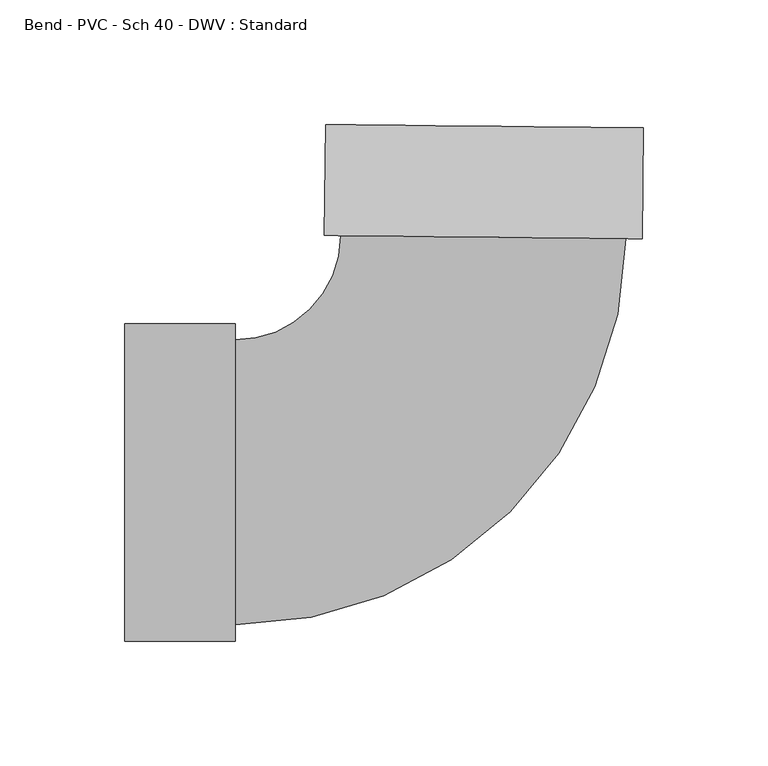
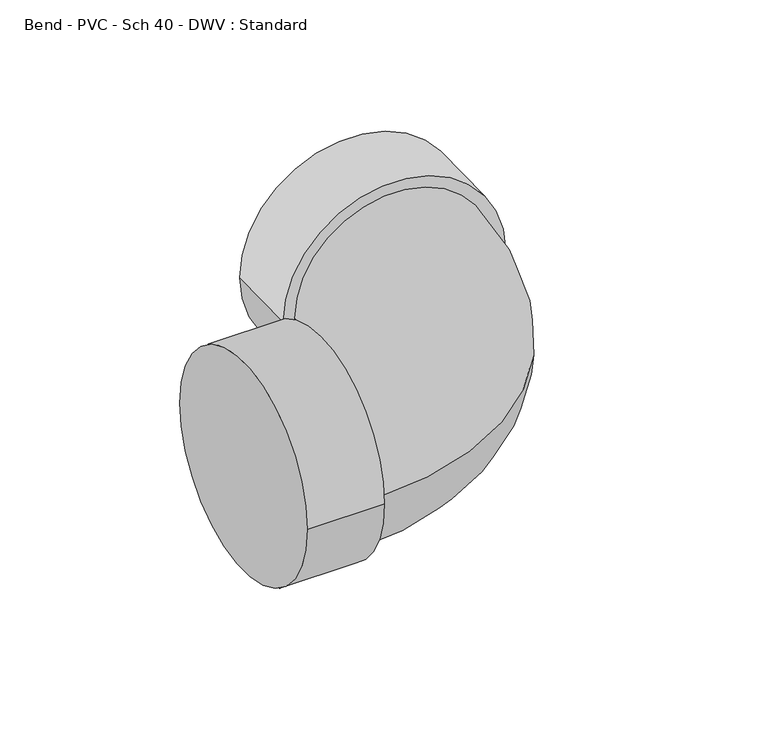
"""IFC4 building model written with IfcOpenShell, lengths in millimetres: pipe fitting geometry, Bend - PVC - Sch 40 - DWV : Standard."""

import ifcopenshell
import ifcopenshell.guid

model = None  # the IFC model being written
_history = None  # IfcOwnerHistory: only IFC2X3 demands one
_inside = {}  # id of a spatial element -> (the spatial element, [elements in it])
_under = {}  # id of a project, library or spatial element -> (it, [spatial elements below it])
_declared = {}  # id of a project -> (the project, [libraries it declares])
_typed = {}  # id of a type object -> (the type object, [elements of that type])
_made_of = {}  # id of a material, layer set ... -> (it, [elements and type objects made of it])


def new_model(schema):
    """Start an empty IFC model of exactly this schema.

    Asked for "IFC4X3", IfcOpenShell would pick the latest addendum, in which some entities
    have other attributes; the version numbers below select the first issue.
    IFC2X3 requires an IfcOwnerHistory on every rooted entity: one is made here for all.
    """
    global model, _history
    if schema == "IFC4X3":
        model = ifcopenshell.file(schema_version=(4, 3, 0, 0))
    else:
        model = ifcopenshell.file(schema=schema)
    _inside.clear()
    _under.clear()
    _declared.clear()
    _typed.clear()
    _made_of.clear()
    _history = None
    if model.schema == "IFC2X3":
        org = make("IfcOrganization", Name="unknown")
        user = make(
            "IfcPersonAndOrganization",
            ThePerson=make("IfcPerson", FamilyName="unknown"),
            TheOrganization=org,
        )
        app = make(
            "IfcApplication",
            ApplicationDeveloper=org,
            Version="unknown",
            ApplicationFullName="unknown",
            ApplicationIdentifier="unknown",
        )
        _history = make(
            "IfcOwnerHistory",
            OwningUser=user,
            OwningApplication=app,
            ChangeAction="ADDED",
            CreationDate=0,
        )
    return model


def make(cls, **values):
    """One entity of the class cls with the attributes given. An attribute that is None is left unset."""
    return model.create_entity(
        cls, **{name: value for name, value in values.items() if value is not None}
    )


def rooted(cls, **values):
    """An entity with a GlobalId (a new one), such as an element, a storey or a relation."""
    return make(cls, GlobalId=ifcopenshell.guid.new(), OwnerHistory=_history, **values)


def si_unit(unit_type, name, prefix=None):
    """IfcSIUnit, for example si_unit("LENGTHUNIT", "METRE", prefix="MILLI")."""
    return make("IfcSIUnit", UnitType=unit_type, Prefix=prefix, Name=name)


def assignment(units):
    """IfcUnitAssignment: the units of a project."""
    return None if units is None else make("IfcUnitAssignment", Units=units)


def point(xyz):
    """IfcCartesianPoint."""
    return None if xyz is None else make("IfcCartesianPoint", Coordinates=xyz)


def direction(xyz):
    """IfcDirection."""
    return None if xyz is None else make("IfcDirection", DirectionRatios=xyz)


def frame(location, z_axis=None, x_axis=None):
    """IfcAxis2Placement3D, a coordinate frame: its origin and axes. An axis left out is left unset."""
    return make(
        "IfcAxis2Placement3D",
        Location=point(location),
        Axis=direction(z_axis),
        RefDirection=direction(x_axis),
    )


def origin():
    """The frame at (0, 0, 0) with its axes left unset."""
    return frame((0.0, 0.0, 0.0))


def place(relative_to, where):
    """IfcLocalPlacement: puts the frame where relative to a parent placement (None: the world)."""
    return make(
        "IfcLocalPlacement", PlacementRelTo=relative_to, RelativePlacement=where
    )


def context(
    kind, dimensions, precision=None, world=None, true_north=None, identifier=None
):
    """IfcGeometricRepresentationContext, for example the 3D "Model" context."""
    return make(
        "IfcGeometricRepresentationContext",
        ContextIdentifier=identifier,
        ContextType=kind,
        CoordinateSpaceDimension=dimensions,
        Precision=precision,
        WorldCoordinateSystem=world,
        TrueNorth=true_north,
    )


def project(units=None, contexts=None):
    """IfcProject with its units and contexts."""
    return rooted(
        "IfcProject",
        Name="project",
        RepresentationContexts=contexts,
        UnitsInContext=assignment(units),
    )


def spatial(cls, under=None, at=None, **own):
    """A site, building, storey or space (cls), placed at a placement, below another one or the project."""
    s = rooted(cls, ObjectPlacement=at, **own)
    if under is not None:
        _under.setdefault(under.id(), (under, []))[1].append(s)
    return s


def circle_curve(where, radius):
    """IfcCircle in the frame where."""
    return make("IfcCircle", Position=where, Radius=radius)


def ellipse_curve(where, semi_axis1, semi_axis2):
    """IfcEllipse in the frame where."""
    return make(
        "IfcEllipse", Position=where, SemiAxis1=semi_axis1, SemiAxis2=semi_axis2
    )


def trimmed(basis, trim1, trim2, sense, master):
    """IfcTrimmedCurve: the piece of a basis curve between two trims."""
    return make(
        "IfcTrimmedCurve",
        BasisCurve=basis,
        Trim1=trim1,
        Trim2=trim2,
        SenseAgreement=sense,
        MasterRepresentation=master,
    )


def shape(context_of_items, identifier, shape_type, items):
    """IfcShapeRepresentation: the items that make up one representation, for example the "Body"."""
    return make(
        "IfcShapeRepresentation",
        ContextOfItems=context_of_items,
        RepresentationIdentifier=identifier,
        RepresentationType=shape_type,
        Items=items,
    )


def source(mapping_origin, context_of_items, identifier, shape_type, items):
    """IfcRepresentationMap: a shape defined once, which mapped items show again and again."""
    return make(
        "IfcRepresentationMap",
        MappingOrigin=mapping_origin,
        MappedRepresentation=shape(context_of_items, identifier, shape_type, items),
    )


def transform(
    local_origin,
    x_axis=None,
    y_axis=None,
    z_axis=None,
    scale=None,
    scale2=None,
    scale3=None,
    uniform=True,
):
    """IfcCartesianTransformationOperator3D, or its non-uniform kind. x_axis, y_axis, z_axis: its Axis1, 2, 3."""
    if uniform:
        return make(
            "IfcCartesianTransformationOperator3D",
            Axis1=direction(x_axis),
            Axis2=direction(y_axis),
            LocalOrigin=point(local_origin),
            Scale=scale,
            Axis3=direction(z_axis),
        )
    return make(
        "IfcCartesianTransformationOperator3DnonUniform",
        Axis1=direction(x_axis),
        Axis2=direction(y_axis),
        LocalOrigin=point(local_origin),
        Scale=scale,
        Axis3=direction(z_axis),
        Scale2=scale2,
        Scale3=scale3,
    )


def mapped(mapping_source, mapping_target):
    """IfcMappedItem: shows the shape of a source again, moved by a transform."""
    return make(
        "IfcMappedItem", MappingSource=mapping_source, MappingTarget=mapping_target
    )


def made_of(thing, what):
    """Note that an element or type object is made of a material, layer set ...; save() writes the relation."""
    if what is not None:
        _made_of.setdefault(what.id(), (what, []))[1].append(thing)
    return thing


def element(
    cls,
    number,
    at=None,
    inside=None,
    cuts=None,
    type_object=None,
    material=None,
    context=None,
    identifier="Body",
    shape_type=None,
    held_by="IfcProductDefinitionShape",
    body=None,
    shapes=None,
    **own,
):
    """One element of the class cls, such as IfcWall. Its Tag is "e" and its number.

    at: its placement. inside: the storey or other place that contains it. cuts: it is an
    opening in that element (IfcRelVoidsElement). A single representation is given by context,
    identifier, shape_type and body (its items); several are given by shapes. held_by: the class
    of the entity that holds the representations. save() writes the other relations.
    """
    e = rooted(cls, Tag="e%d" % number, ObjectPlacement=at, **own)
    if body is not None:
        shapes = [shape(context, identifier, shape_type, body)]
    if shapes is not None:
        e.Representation = make(held_by, Representations=shapes)
    if inside is not None:
        _inside.setdefault(inside.id(), (inside, []))[1].append(e)
    if cuts is not None:
        rooted(
            "IfcRelVoidsElement", RelatingBuildingElement=cuts, RelatedOpeningElement=e
        )
    if type_object is not None:
        _typed.setdefault(type_object.id(), (type_object, []))[1].append(e)
    return made_of(e, material)


def aggregate(whole, parts):
    """IfcRelAggregates: a whole, such as a stair, and the parts it consists of."""
    return rooted("IfcRelAggregates", RelatingObject=whole, RelatedObjects=parts)


def save(model, path):
    """Write the relations noted so far, then the file.

    IfcRelAggregates (storeys below a building ...), IfcRelContainedInSpatialStructure (elements
    in a storey), IfcRelDefinesByType, IfcRelAssociatesMaterial and IfcRelDeclares: one each for
    every whole, place, type object, material and project.
    """
    for whole, parts in _under.values():
        aggregate(whole, parts)
    for where, things in _inside.values():
        rooted(
            "IfcRelContainedInSpatialStructure",
            RelatedElements=things,
            RelatingStructure=where,
        )
    for kind, things in _typed.values():
        rooted("IfcRelDefinesByType", RelatedObjects=things, RelatingType=kind)
    for what, things in _made_of.values():
        rooted("IfcRelAssociatesMaterial", RelatedObjects=things, RelatingMaterial=what)
    for by, libraries in _declared.values():
        rooted("IfcRelDeclares", RelatingContext=by, RelatedDefinitions=libraries)
    model.write(path)


def plane_surface(at):
    """IfcPlane: the flat surface through the origin of the frame at, square to its z axis."""
    return make("IfcPlane", Position=at)


def cylinder_surface(at, radius):
    """IfcCylindricalSurface: all points at the distance radius from the z axis of the frame at."""
    return make("IfcCylindricalSurface", Position=at, Radius=radius)


def revolved_surface(curve, axis_point, axis_direction):
    """IfcSurfaceOfRevolution: the curve turned about the line through axis_point along axis_direction."""
    return make(
        "IfcSurfaceOfRevolution",
        SweptCurve=make("IfcArbitraryOpenProfileDef", ProfileType="CURVE", Curve=curve),
        AxisPosition=make("IfcAxis1Placement", Location=point(axis_point), Axis=direction(axis_direction)),
    )


def advanced_brep(points, edges, surfaces, faces):
    """IfcAdvancedBrep: a solid bounded by faces that lie on surfaces and meet in shared edges.

    An edge is (start, end): straight between two places in points (the first is 0);
    or (start, end, curve); or (start, end, curve, False) where it runs against its curve.
    A face is (place in surfaces, loops), or (place, loops, False) where it looks against
    its surface's normal. A loop lists edges by number (the first is 1), with a minus sign
    where the edge is run from its end to its start. The first loop is the outer one.
    """
    corners = [point(p) for p in points]
    vertices = [make("IfcVertexPoint", VertexGeometry=c) for c in corners]
    made = []
    for start, end, *more in edges:
        made.append(
            make(
                "IfcEdgeCurve",
                EdgeStart=vertices[start],
                EdgeEnd=vertices[end],
                EdgeGeometry=more[0] if more else make("IfcPolyline", Points=[corners[start], corners[end]]),
                SameSense=more[1] if len(more) > 1 else True,
            )
        )
    hull = []
    for where, loops, *sense in faces:
        bounds = []
        for j, loop in enumerate(loops):
            ring = [make("IfcOrientedEdge", EdgeElement=made[abs(k) - 1], Orientation=k > 0) for k in loop]
            bounds.append(
                make(
                    "IfcFaceOuterBound" if j == 0 else "IfcFaceBound",
                    Bound=make("IfcEdgeLoop", EdgeList=ring),
                    Orientation=True,
                )
            )
        hull.append(make("IfcAdvancedFace", Bounds=bounds, FaceSurface=surfaces[where], SameSense=sense[0] if sense else True))
    return make("IfcAdvancedBrep", Outer=make("IfcClosedShell", CfsFaces=hull))


def bend_pvc_sch_40_dwv_standard_998a4097(model_context):
    return source(origin(), model_context, "Body", "AdvancedBrep", [
        advanced_brep(
        [(-142.875, -63.754, 0.0), (-142.875, 63.754, 0.0), (-98.425, -63.754, 0.0), (-98.425, 63.754, 0.0), (-98.425, -57.15, 0.0), (-98.425, 57.15, 0.0), (-56.1232671, 99.0140496, 0.0), (58.1705511, 97.825304, 0.0), (64.7741939, 97.756621, 0.0), (-62.72691, 99.0827326, 0.0), (65.2364838, 142.2042169, 0.0), (-62.26462, 143.5303286, 0.0)],
        [
            (0, 1, circle_curve(frame((-142.875, 0.0, 0.0), z_axis=(-1.0, 0.0, 0.0), x_axis=(0.0, 1.0, 0.0)), 63.754)),
            (1, 0, circle_curve(frame((-142.875, 0.0, 0.0), z_axis=(-1.0, 0.0, 0.0), x_axis=(0.0, 1.0, 0.0)), 63.754)),
            (2, 3, circle_curve(frame((-98.425, 0.0, 0.0), z_axis=(1.0, 0.0, 0.0), x_axis=(0.0, 1.0, 0.0)), 63.754)),
            (3, 2, circle_curve(frame((-98.425, 0.0, 0.0), z_axis=(1.0, 0.0, 0.0), x_axis=(0.0, 1.0, 0.0)), 63.754)),
            (4, 5, circle_curve(frame((-98.425, 0.0, 0.0), z_axis=(-1.0, 0.0, 0.0), x_axis=(0.0, 1.0, 0.0)), 57.15)),
            (5, 4, circle_curve(frame((-98.425, 0.0, 0.0), z_axis=(-1.0, 0.0, 0.0), x_axis=(0.0, 1.0, 0.0)), 57.15)),
            (0, 2),
            (3, 1),
            (6, 5, circle_curve(frame((-98.425, 99.4540208, 0.0), z_axis=(0.0, 0.0, -1.0), x_axis=(0.0, -1.0, 0.0)), 42.3040208)),
            (4, 7, circle_curve(frame((-98.425, 99.4540208, 0.0), z_axis=(0.0, 0.0, 1.0), x_axis=(0.0, -1.0, 0.0)), 156.6040208)),
            (7, 6, circle_curve(frame((1.023642, 98.4196768, 0.0), z_axis=(-0.010400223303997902, -0.9999459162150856, 0.0), x_axis=(-0.9999459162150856, 0.010400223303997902, 0.0)), 57.15)),
            (6, 7, circle_curve(frame((1.023642, 98.4196768, 0.0), z_axis=(-0.010400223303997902, -0.9999459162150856, 0.0), x_axis=(-0.9999459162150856, 0.010400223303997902, 0.0)), 57.15)),
            (8, 9, circle_curve(frame((1.023642, 98.4196768, 0.0), z_axis=(-0.010400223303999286, -0.9999459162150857, 0.0), x_axis=(-0.9999459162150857, 0.010400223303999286, 0.0)), 63.754)),
            (9, 8, circle_curve(frame((1.023642, 98.4196768, 0.0), z_axis=(-0.010400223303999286, -0.9999459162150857, 0.0), x_axis=(-0.9999459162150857, 0.010400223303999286, 0.0)), 63.754)),
            (10, 11, circle_curve(frame((1.4859319, 142.8672728, 0.0), z_axis=(0.010400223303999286, 0.9999459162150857, 0.0), x_axis=(-0.9999459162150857, 0.010400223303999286, 0.0)), 63.754)),
            (11, 10, circle_curve(frame((1.4859319, 142.8672728, 0.0), z_axis=(0.010400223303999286, 0.9999459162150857, 0.0), x_axis=(-0.9999459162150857, 0.010400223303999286, 0.0)), 63.754)),
            (8, 10),
            (11, 9),
        ],
        [
            plane_surface(frame((-142.875, 0.0, 0.0), z_axis=(-1.0, 0.0, 0.0), x_axis=(0.0, 0.0, 1.0))),
            plane_surface(frame((-98.425, 0.0, 0.0), z_axis=(1.0, 0.0, 0.0), x_axis=(0.0, 0.0, 1.0))),
            cylinder_surface(frame((-142.875, 0.0, 0.0), z_axis=(-1.0, 0.0, 0.0), x_axis=(0.0, 1.0, 0.0)), 63.754),
            revolved_surface(trimmed(ellipse_curve(frame((-98.425, 0.0, 0.0), z_axis=(-1.0, 0.0, 0.0), x_axis=(0.0, 1.0, 0.0)), 57.15, 57.15), [point((-98.425, -57.15, 0.0))], [point((-98.425, 57.15, 0.0))], True, "CARTESIAN"), (-98.425, 99.4540208, 0.0), (0.0, 0.0, 1.0)),
            revolved_surface(trimmed(ellipse_curve(frame((-98.425, 0.0, 0.0), z_axis=(-1.0, 0.0, 0.0), x_axis=(0.0, 1.0, 0.0)), 57.15, 57.15), [point((-98.425, 57.15, 0.0))], [point((-98.425, -57.15, 0.0))], True, "CARTESIAN"), (-98.425, 99.4540208, 0.0), (0.0, 0.0, 1.0)),
            plane_surface(frame((1.023642, 98.4196768, 0.0), z_axis=(-0.010400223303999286, -0.9999459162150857, 0.0), x_axis=(0.0, 0.0, 1.0))),
            plane_surface(frame((1.4859319, 142.8672728, 0.0), z_axis=(0.010400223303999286, 0.9999459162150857, 0.0), x_axis=(0.0, 0.0, 1.0))),
            cylinder_surface(frame((1.023642, 98.4196768, 0.0), z_axis=(-0.010400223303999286, -0.9999459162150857, 0.0), x_axis=(-0.9999459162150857, 0.010400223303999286, 0.0)), 63.754),
        ],
        [
            (0, [[1, 2]]),
            (1, [[3, 4], [5, 6]]),
            (2, [[-1, 7, -4, 8]]),
            (2, [[-2, -8, -3, -7]]),
            (3, [[9, -5, 10, 11]]),
            (4, [[-9, 12, -10, -6]]),
            (5, [[13, 14], [-11, -12]]),
            (6, [[15, 16]]),
            (7, [[-13, 17, -16, 18]]),
            (7, [[-14, -18, -15, -17]]),
        ],
    ),
    ])


if __name__ == "__main__":
    model = new_model("IFC4")
    model_context = context("Model", 3, world=origin())
    ifc_project = project(units=[si_unit("LENGTHUNIT", "METRE", prefix="MILLI")], contexts=[model_context])
    site = spatial("IfcSite", under=ifc_project)
    building = spatial("IfcBuilding", under=site)
    placement = place(None, origin())
    bend_pvc_sch_40_dwv_standard_shape = bend_pvc_sch_40_dwv_standard_998a4097(model_context)
    element("IfcPipeFitting", 1, ObjectType="Bend - PVC - Sch 40 - DWV : Standard", at=placement, inside=building, context=model_context, shape_type="MappedRepresentation", body=[
        mapped(bend_pvc_sch_40_dwv_standard_shape, transform((0.0, 0.0, 0.0), x_axis=(1.0, 0.0, 0.0), y_axis=(0.0, 1.0, 0.0), z_axis=(0.0, 0.0, 1.0))),
    ])
    save(model, "model.ifc")
